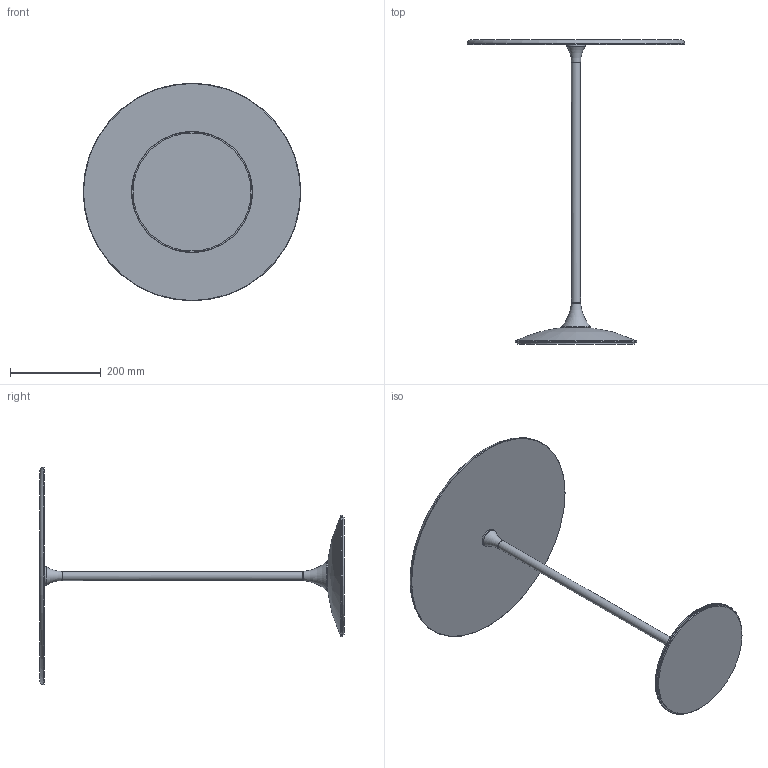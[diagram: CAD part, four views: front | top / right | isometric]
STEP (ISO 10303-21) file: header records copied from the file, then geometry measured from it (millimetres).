
FILE_DESCRIPTION((''),'2;1');
FILE_NAME('C:\AutodeskVault\AreaLavoro\Progetti\SoVeT Italia\2. Tavolini_Coffee tables\Tulip\Web file\Tulip Web\P4616.stp','2012-06-14T17:28:09',('Gianluca'),('So.Ve.T. s.r.l.'),'Autodesk Inventor 2013','Autodesk Inventor 2013','IL PROGETTO E'' DI ESCLUSIVA PROPRIETA'' DELLA SO.VE.T. srl. E'' VIETATA OGNI RIPRODUZIONE TOTALE O PARZIALE E QUALSIASI UTILIZZO NON AUTORIZZATO. ');
FILE_SCHEMA(('AUTOMOTIVE_DESIGN { 1 0 10303 214 1 1 1 1 }'));
Length unit declared in the file: millimetre
Products named in the file (1): P4616 LCTR Contorno semplificato
Bounding box: 480 x 670.45 x 480 mm (x, y, z)
Volume: 3300322.6 mm3; surface area: 530338.2 mm2
Topology: 1 solids, 1 shells, 26 faces, 51 edges, 30 vertices
Faces by surface type: cone 7, torus 7, plane 6, cylinder 5, bspline 1
Full cylindrical faces by diameter (mm): 20 x1, 40 x1, 60 x1, 260 x1, 267 x1
Entity records: 614 total; most frequent: CARTESIAN_POINT 102, DIRECTION 102, AXIS2_PLACEMENT_3D 51, ORIENTED_EDGE 50, EDGE_LOOP 50, STYLED_ITEM 27, FACE_OUTER_BOUND 26, ADVANCED_FACE 26
